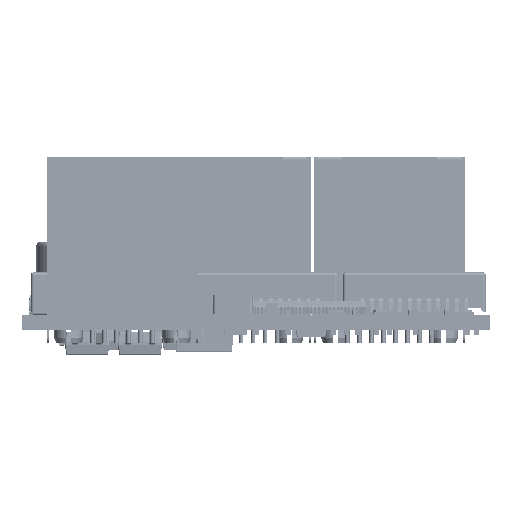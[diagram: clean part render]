
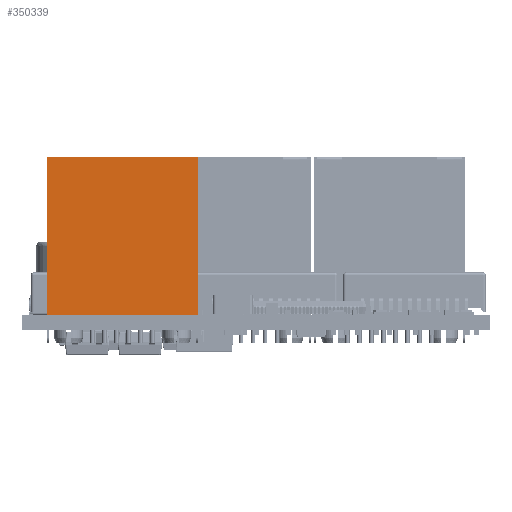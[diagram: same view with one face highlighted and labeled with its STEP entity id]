
A CAD part, front view. The second image highlights one B-rep face of the part: STEP entity #350339.
In plain terms, the highlighted planar face has unit normal (0, -1, 0).
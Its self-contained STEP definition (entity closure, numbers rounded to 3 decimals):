
#350220 = VERTEX_POINT('',#350221);
#350221 = CARTESIAN_POINT('',(-7.375,-5.,
    16.72));
#350227 = EDGE_CURVE('',#350220,#350228,#350230,.T.);
#350228 = VERTEX_POINT('',#350229);
#350229 = CARTESIAN_POINT('',(8.655,-5.,
    16.72));
#350230 = LINE('',#350231,#350232);
#350231 = CARTESIAN_POINT('',(-7.375,-5.,
    16.72));
#350232 = VECTOR('',#350233,1.);
#350233 = DIRECTION('',(1.,0.,0.));
#350315 = VERTEX_POINT('',#350316);
#350316 = CARTESIAN_POINT('',(-7.375,-5.,
    0.03));
#350322 = EDGE_CURVE('',#350220,#350315,#350323,.T.);
#350323 = LINE('',#350324,#350325);
#350324 = CARTESIAN_POINT('',(-7.375,-5.,
    16.72));
#350325 = VECTOR('',#350326,1.);
#350326 = DIRECTION('',(-0.,-0.,-1.));
#350339 = ADVANCED_FACE('',(#350340),#350358,.F.);
#350340 = FACE_BOUND('',#350341,.T.);
#350341 = EDGE_LOOP('',(#350342,#350350,#350356,#350357));
#350342 = ORIENTED_EDGE('',*,*,#350343,.T.);
#350343 = EDGE_CURVE('',#350315,#350344,#350346,.T.);
#350344 = VERTEX_POINT('',#350345);
#350345 = CARTESIAN_POINT('',(8.655,-5.,
    0.03));
#350346 = LINE('',#350347,#350348);
#350347 = CARTESIAN_POINT('',(-7.375,-5.,
    0.03));
#350348 = VECTOR('',#350349,1.);
#350349 = DIRECTION('',(1.,0.,0.));
#350350 = ORIENTED_EDGE('',*,*,#350351,.F.);
#350351 = EDGE_CURVE('',#350228,#350344,#350352,.T.);
#350352 = LINE('',#350353,#350354);
#350353 = CARTESIAN_POINT('',(8.655,-5.,
    16.72));
#350354 = VECTOR('',#350355,1.);
#350355 = DIRECTION('',(-0.,-0.,-1.));
#350356 = ORIENTED_EDGE('',*,*,#350227,.F.);
#350357 = ORIENTED_EDGE('',*,*,#350322,.T.);
#350358 = PLANE('',#350359);
#350359 = AXIS2_PLACEMENT_3D('',#350360,#350361,#350362);
#350360 = CARTESIAN_POINT('',(-7.375,-5.,
    16.72));
#350361 = DIRECTION('',(0.,1.,0.));
#350362 = DIRECTION('',(0.,0.,1.));
